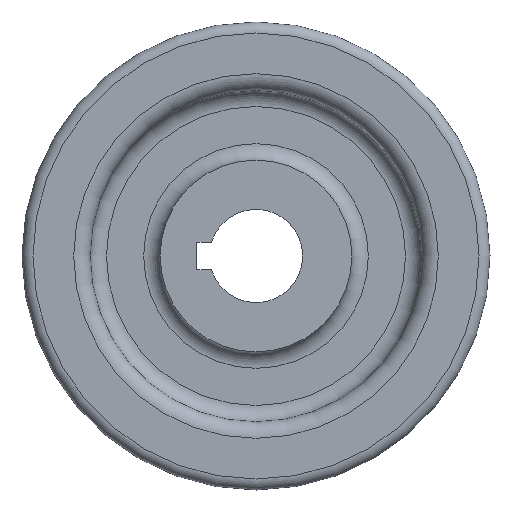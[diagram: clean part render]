
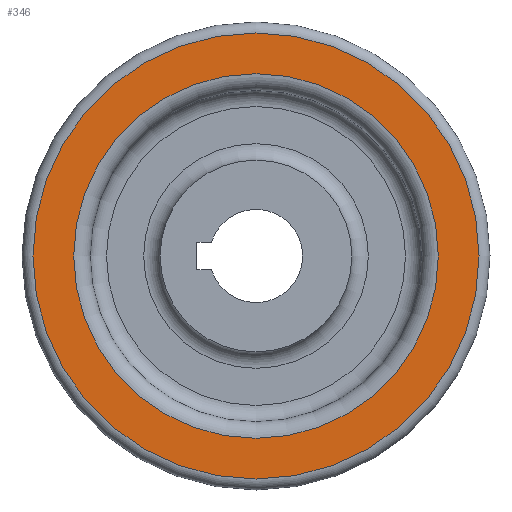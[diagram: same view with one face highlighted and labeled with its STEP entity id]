
A CAD part, left-side view. The second image highlights one B-rep face of the part: STEP entity #346.
In plain terms, the highlighted planar face has unit normal (-1, 0, 0).
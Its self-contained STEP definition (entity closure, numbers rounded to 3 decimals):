
#35=FACE_BOUND($,#106,.T.);
#36=FACE_BOUND($,#107,.T.);
#61=PLANE($,#386);
#106=EDGE_LOOP($,(#289));
#107=EDGE_LOOP($,(#290));
#171=CIRCLE($,#385,33.272);
#172=CIRCLE($,#387,40.7);
#203=VERTEX_POINT($,#586);
#204=VERTEX_POINT($,#589);
#239=EDGE_CURVE($,#203,#203,#171,.T.);
#240=EDGE_CURVE($,#204,#204,#172,.T.);
#289=ORIENTED_EDGE($,*,*,#239,.T.);
#290=ORIENTED_EDGE($,*,*,#240,.F.);
#346=ADVANCED_FACE($,(#35,#36),#61,.T.);
#385=AXIS2_PLACEMENT_3D($,#587,#469,#470);
#386=AXIS2_PLACEMENT_3D($,#588,#471,#472);
#387=AXIS2_PLACEMENT_3D($,#590,#473,#474);
#469=DIRECTION('center_axis',(1.,0.,0.));
#470=DIRECTION('ref_axis',(0.,0.,-1.));
#471=DIRECTION('center_axis',(-1.,0.,0.));
#472=DIRECTION('ref_axis',(0.,0.,1.));
#473=DIRECTION('center_axis',(1.,0.,0.));
#474=DIRECTION('ref_axis',(0.,0.,-1.));
#586=CARTESIAN_POINT('',(-9.5,33.272,0.));
#587=CARTESIAN_POINT('Origin',(-9.5,0.,
0.));
#588=CARTESIAN_POINT('Origin',(-9.5,40.7,0.));
#589=CARTESIAN_POINT('',(-9.5,40.7,0.));
#590=CARTESIAN_POINT('Origin',(-9.5,0.,
0.));
